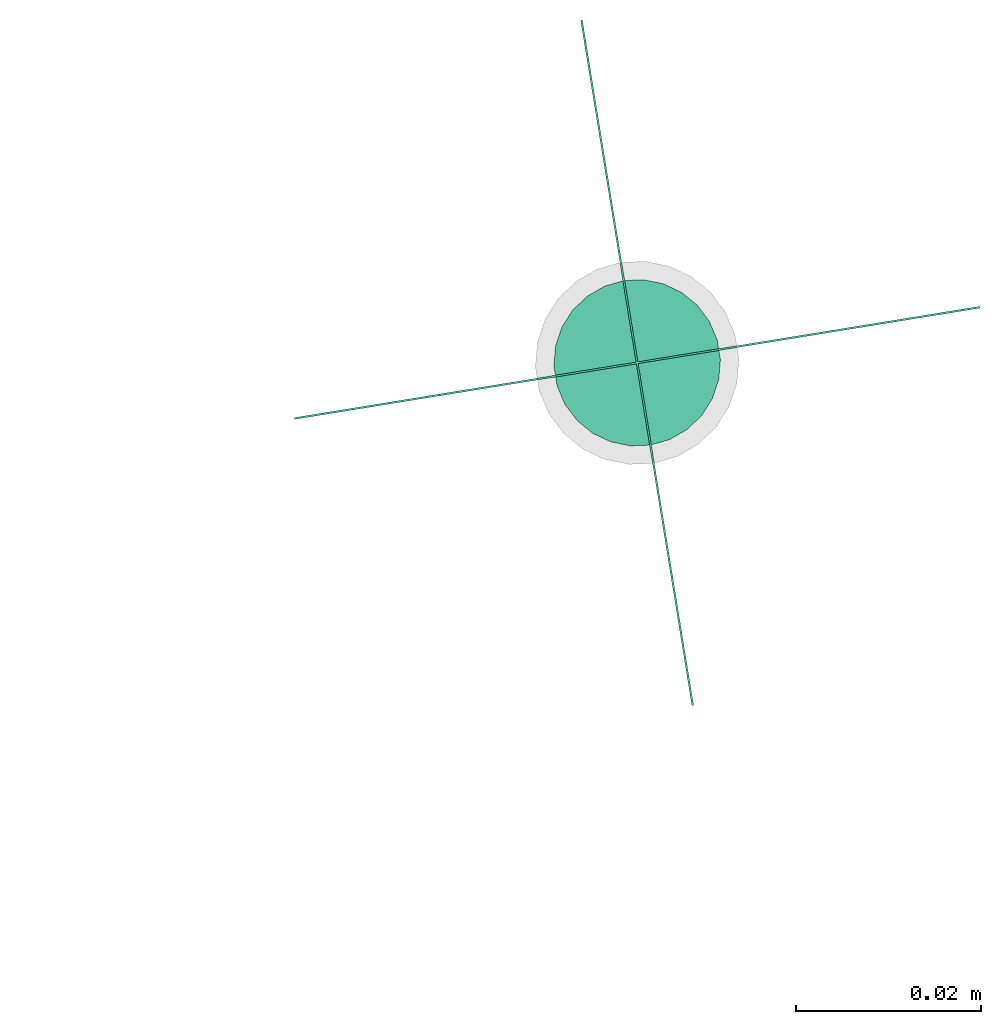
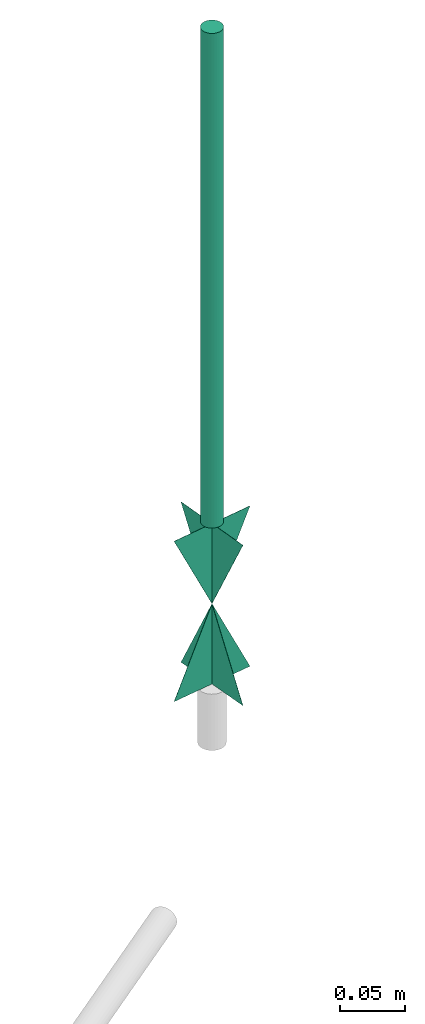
# One storey, part 6 of 11: 1 flow controller, 1 flow segment.
"""IFC2X3 building model written with IfcOpenShell, lengths in millimetres."""

from ifc_helpers import new_model, entity, si_unit, converted_unit, derived_unit, direction, frame, origin, origin_with_axes, origin_2d_with_axis, place, context, subcontext, project, spatial, polyline, circle, outline, extrude, source, transform, mapped, material, type_object, element, save


model = new_model("IFC2X3")

# Units and contexts
plan_context = context("Plan", 3, precision=1e-05, world=origin_with_axes())
model_context = context("Model", 3, precision=0.01, world=origin(), true_north=direction((6.12323399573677e-17, 1.0)))
body_context = subcontext(model_context, "Body", "Model", "MODEL_VIEW")
ifc_project = project(units=[converted_unit("PLANEANGLEUNIT", "DEGREE", entity("IfcPositiveLengthMeasure", 0.0174532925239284), si_unit("PLANEANGLEUNIT", "RADIAN"), dimensions=[0, 0, 0, 0, 0, 0, 0]), si_unit("AREAUNIT", "SQUARE_METRE"), si_unit("LENGTHUNIT", "METRE", prefix="MILLI"), si_unit("MASSUNIT", "GRAM", prefix="KILO"), si_unit("POWERUNIT", "WATT"), si_unit("PRESSUREUNIT", "PASCAL", prefix="KILO"), si_unit("FORCEUNIT", "NEWTON", prefix="KILO"), si_unit("ELECTRICVOLTAGEUNIT", "VOLT"), si_unit("ELECTRICCURRENTUNIT", "AMPERE"), si_unit("THERMODYNAMICTEMPERATUREUNIT", "DEGREE_CELSIUS"), si_unit("TIMEUNIT", "SECOND"), si_unit("VOLUMEUNIT", "CUBIC_METRE"), derived_unit("LINEARVELOCITYUNIT", [(si_unit("LENGTHUNIT", "METRE"), 1), (si_unit("TIMEUNIT", "SECOND"), -1)]), derived_unit("VOLUMETRICFLOWRATEUNIT", [(si_unit("VOLUMEUNIT", "CUBIC_METRE"), 1), (si_unit("TIMEUNIT", "SECOND"), -1)]), derived_unit("THERMALTRANSMITTANCEUNIT", [(si_unit("POWERUNIT", "WATT"), 1), (si_unit("THERMODYNAMICTEMPERATUREUNIT", "KELVIN"), -1), (si_unit("AREAUNIT", "SQUARE_METRE"), -1)]), derived_unit("SOUNDPRESSUREUNIT", [(si_unit("PRESSUREUNIT", "PASCAL"), 1)])], contexts=[model_context, plan_context])

# Site, building, storey
site_placement = place(None, frame((-0.000710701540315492, 0.00438415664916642, 0.0), z_axis=(0.0, 0.0, 1.0), x_axis=(-0.160236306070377, 0.987078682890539, 0.0)))
site = spatial("IfcSite", under=ifc_project, at=site_placement, Name="Default", CompositionType="ELEMENT")
building_placement = place(site_placement, origin_with_axes())
building = spatial("IfcBuilding", under=site, at=building_placement, CompositionType="ELEMENT")
storey_placement = place(building_placement, frame((0.0, 0.0, 58999.9999999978), z_axis=(0.0, 0.0, 1.0), x_axis=(1.0, 0.0, 0.0)))
storey = spatial("IfcBuildingStorey", under=building, at=storey_placement, Name="Nivå F", CompositionType="ELEMENT", Elevation=58999.9999999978)

# Flow controller
ifc_material = material(Name="2d_hide")
valve_type = type_object("IfcValveType", Name="STENGEVENTIL - MOTORSTYRT -  -:STENGEVENTIL - MOTORSTYRT -  -", PredefinedType="NOTDEFINED", material=ifc_material)
shared_shape = source(origin(), body_context, "Body", "SweptSolid", [
    extrude(outline(polyline([(-37.5000000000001, -25.0), (37.5000000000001, -25.0), (0.0, 50.0), (-37.5000000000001, -25.0)])), frame((50.0, 0.0, -0.1), z_axis=(0.0, 0.0, 1.0), x_axis=(0.0, 1.0, 0.0)), (0.0, 0.0, 1.0), 0.2),
    extrude(outline(polyline([(-39.1311896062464, -22.360679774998), (44.7213595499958, -22.3606797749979), (-5.59016994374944, 44.7213595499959), (-39.1311896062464, -22.360679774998)])), frame((-50.0, 0.0, -0.1), z_axis=(0.0, 0.0, 1.0), x_axis=(0.894427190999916, 0.447213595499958, 0.0)), (0.0, 0.0, 1.0), 0.2),
    extrude(outline(polyline([(-39.1311896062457, -22.3606797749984), (44.7213595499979, -22.3606797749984), (-5.5901699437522, 44.7213595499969), (-39.1311896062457, -22.3606797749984)])), frame((50.0, -0.1, 0.0), z_axis=(0.0, 1.0, 0.0), x_axis=(-0.894427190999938, 0.0, 0.447213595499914)), (0.0, 0.0, 1.0), 0.2),
    extrude(outline(polyline([(-37.4999999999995, -25.0), (37.5000000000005, -25.0), (0.0, 50.0), (-37.4999999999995, -25.0)])), frame((-50.0, -0.1, 0.0), z_axis=(0.0, 1.0, 0.0), x_axis=(0.0, 0.0, 1.0)), (0.0, 0.0, 1.0), 0.2),
])
flow_controller_placement = place(storey_placement, frame((782607.755667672, -508373.262839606, 90.3054136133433), z_axis=(0.0, -1.0, 0.0), x_axis=(0.0, 0.0, -1.0)))
element("IfcFlowController", 1, at=flow_controller_placement, inside=storey, type_object=valve_type, material=ifc_material, Name="STENGEVENTIL - MOTORSTYRT -  -:STENGEVENTIL - MOTORSTYRT -  -", ObjectType="STENGEVENTIL - MOTORSTYRT -  -:STENGEVENTIL - MOTORSTYRT -  -", context=body_context, shape_type="MappedRepresentation", body=[
    mapped(shared_shape, transform((0.0, 0.0, 0.0), scale=1.0)),
])

# Flow segment
pipe_segment_type = type_object("IfcPipeSegmentType", Name="Pipe Types:Kobberrør", PredefinedType="NOTDEFINED")
flow_segment_placement = place(storey_placement, origin_with_axes())
element("IfcFlowSegment", 2, at=flow_segment_placement, inside=storey, type_object=pipe_segment_type, Name="Pipe Types:Kobberrør", ObjectType="Pipe Types:Kobberrør", context=body_context, shape_type="SweptSolid", body=[
    extrude(circle(Radius=9.0, at=origin_2d_with_axis()), frame((782607.755667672, -508373.262839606, 167.305413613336), z_axis=(0.0, 0.0, 1.0), x_axis=(-1.0, 0.0, 0.0)), (0.0, 0.0, 1.0), 462.694586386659),
])

save(model, "model.ifc")
